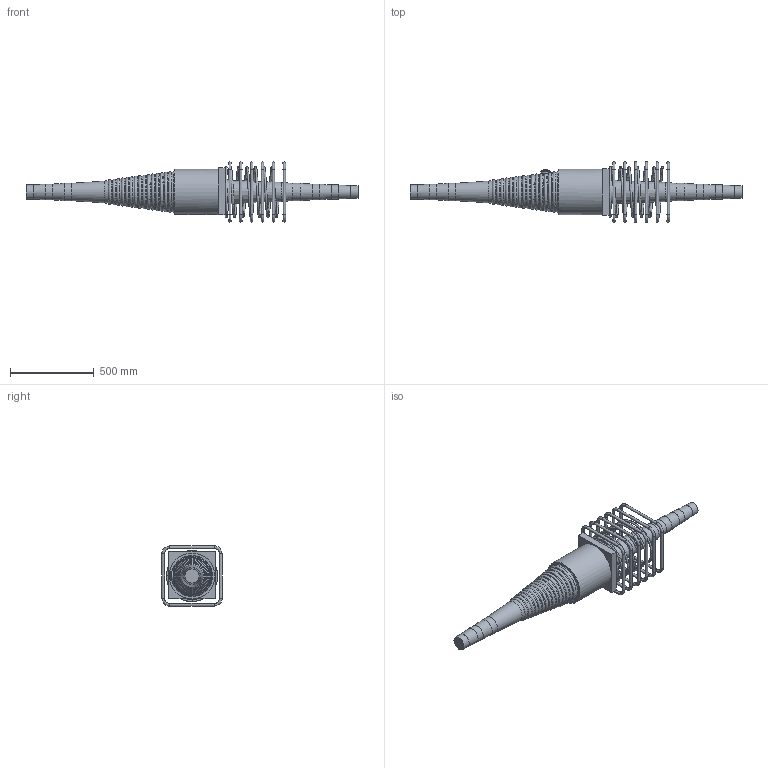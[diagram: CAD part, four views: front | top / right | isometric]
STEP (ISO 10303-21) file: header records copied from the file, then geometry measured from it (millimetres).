
FILE_DESCRIPTION(/* description */ (''),/* implementation_level */ '2;1');
FILE_NAME(/* name */ 'Z:\04 Publications\05 Give-out\BBR\6_3D_Models\BBR VT CONA CMI\BBR VT CONA CMI SP\01306\BBR VT CONA CMI SP 1306_Coupler H Assembly_CS-34,28.stp',/* time_stamp */ '2017-05-10T08:59:42+02:00',/* author */ ('IP'),/* organization */ (''),/* preprocessor_version */ 'ST-DEVELOPER v16.1',/* originating_system */ 'Autodesk Inventor 2016',/* authorisation */ '');
FILE_SCHEMA (('AUTOMOTIVE_DESIGN { 1 0 10303 214 3 1 1 }'));
Products named in the file (1): BBR VT CONA CMI SP 1306_Coupler H Assembly_CS-34,28
Bounding box: 1984 x 360 x 360 mm (x, y, z)
Volume: 44177918.9 mm3; surface area: 1708880.5 mm2
Topology: 8 solids, 8 shells, 880 faces, 2294 edges, 1476 vertices
Faces by surface type: bspline 418, plane 267, cylinder 97, torus 81, cone 17
Full cylindrical faces by diameter (mm): 16 x24, 34 x1, 57 x1, 74 x1, 84 x2, 94 x2, 104 x2, 273 x1
Entity records: 39696 total; most frequent: CARTESIAN_POINT 20952, ORIENTED_EDGE 4320, DIRECTION 2642, EDGE_CURVE 2157, VERTEX_POINT 1472, EDGE_LOOP 1074, LINE 926, VECTOR 926
